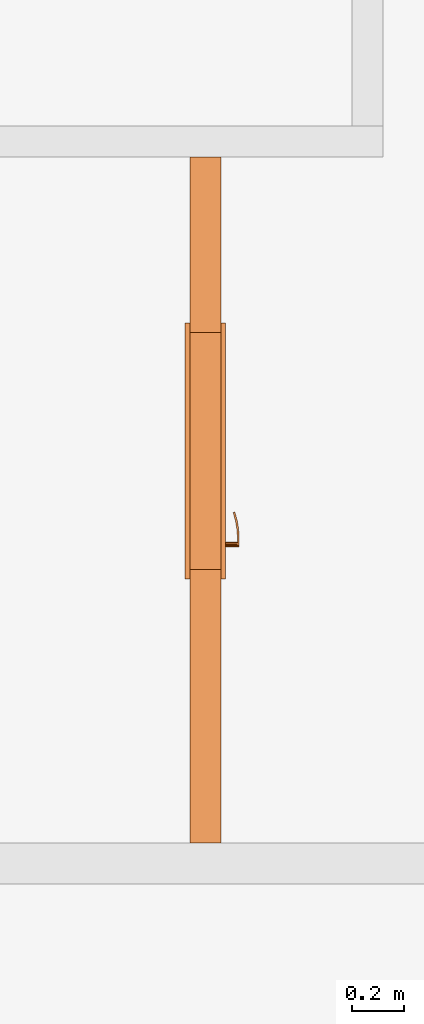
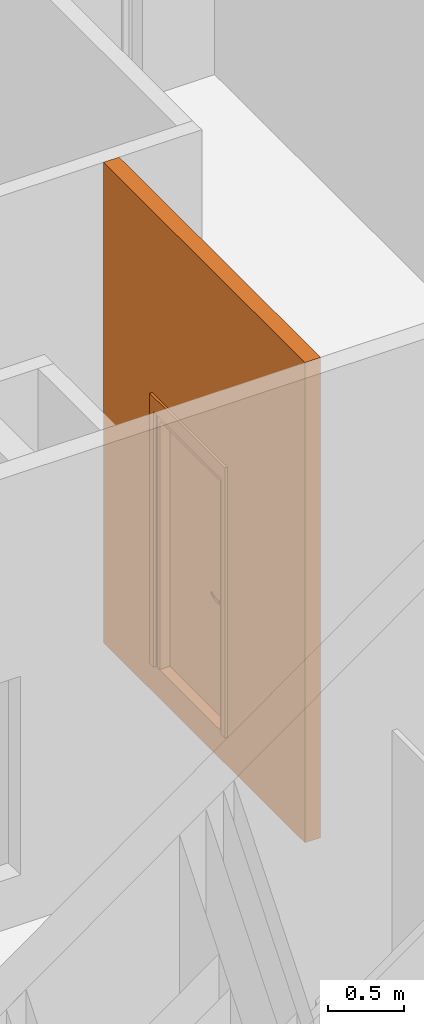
# One storey, part 14 of 46: 2 proxies, 1 opening.
"""IFC2X3 building model written with IfcOpenShell, lengths in millimetres."""

from ifc_helpers import new_model, entity, si_unit, converted_unit, derived_unit, money_unit, direction, frame, origin_with_axes, origin_2d_with_axis, place, context, subcontext, project, spatial, rectangle, extrude, open_shell, faceted_brep, surface_model, source, transform, mapped, material, type_object, element, fill, save


model = new_model("IFC2X3")

# Units and contexts
model_context = context("Model", 3, precision=0.01, world=origin_with_axes(), true_north=direction((0.34421633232, 0.938890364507)))
body_context = subcontext(model_context, "Body", "Model", "MODEL_VIEW")
ifc_project = project(units=[si_unit("LENGTHUNIT", "METRE", prefix="MILLI"), si_unit("AREAUNIT", "SQUARE_METRE"), si_unit("VOLUMEUNIT", "CUBIC_METRE"), converted_unit("PLANEANGLEUNIT", "DEGREE", entity("IfcPlaneAngleMeasure", 0.0174532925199), si_unit("PLANEANGLEUNIT", "RADIAN"), dimensions=[0, 0, 0, 0, 0, 0, 0]), si_unit("SOLIDANGLEUNIT", "STERADIAN"), money_unit("USD"), converted_unit("TIMEUNIT", "Year", entity("IfcTimeMeasure", 31556926.0), si_unit("TIMEUNIT", "SECOND"), dimensions=[0, 0, 1, 0, 0, 0, 0]), si_unit("MASSUNIT", "GRAM", prefix="KILO"), si_unit("THERMODYNAMICTEMPERATUREUNIT", "DEGREE_CELSIUS"), si_unit("LUMINOUSINTENSITYUNIT", "LUMEN"), si_unit("ENERGYUNIT", "JOULE", prefix="MEGA"), derived_unit("THERMALCONDUCTANCEUNIT", [(si_unit("POWERUNIT", "WATT"), 1), (si_unit("LENGTHUNIT", "METRE"), -1), (si_unit("THERMODYNAMICTEMPERATUREUNIT", "KELVIN"), -1)]), derived_unit("SPECIFICHEATCAPACITYUNIT", [(si_unit("ENERGYUNIT", "JOULE"), 1), (si_unit("MASSUNIT", "GRAM", prefix="KILO"), -1), (si_unit("THERMODYNAMICTEMPERATUREUNIT", "KELVIN"), -1)]), derived_unit("MASSDENSITYUNIT", [(si_unit("MASSUNIT", "GRAM", prefix="KILO"), 1), (si_unit("VOLUMEUNIT", "CUBIC_METRE"), -1)])], contexts=[model_context])

# Site, building, storey
site_placement = place(None, origin_with_axes())
site = spatial("IfcSite", under=ifc_project, at=site_placement, Name="USTRONIE MORSKIE", CompositionType="ELEMENT")
building_placement = place(site_placement, origin_with_axes())
building = spatial("IfcBuilding", under=site, at=building_placement, Name="Budynek", CompositionType="ELEMENT")
storey_placement = place(building_placement, origin_with_axes())
storey = spatial("IfcBuildingStorey", under=building, at=storey_placement, Name="PARTER", CompositionType="ELEMENT", Elevation=0.0)

# Proxies, opening
ifc_material = material(Name="Bloczki silikatowe")
building_element_proxy_type_1 = type_object("IfcBuildingElementProxyType", Name="Bloczki silikatowe 120", PredefinedType="NOTDEFINED")
proxy_1_placement = place(storey_placement, frame((375537.920919, 739651.199937, -230.0), z_axis=(0.0, 0.0, 1.0), x_axis=(0.0, -1.0, 0.0)))
proxy_1 = element("IfcBuildingElementProxy", 1, at=proxy_1_placement, inside=storey, type_object=building_element_proxy_type_1, material=ifc_material, Name="SW-04", context=body_context, shape_type="Brep", body=[
    faceted_brep([(2720.00090117, 60.0, 0.0), (2720.00090117, -60.0, 0.0), (59.9999999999, -60.0, 0.0), (59.9999999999, 60.0, 0.0), (2720.00090117, 60.0, 3870.0), (2720.00090117, -60.0, 3870.0), (59.9999999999, -60.0, 3870.0), (59.9999999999, 60.0, 3870.0)], [[[0, 1, 2, 3]], [[1, 0, 4, 5]], [[1, 5, 6, 2]], [[7, 3, 2, 6]], [[4, 0, 3, 7]], [[5, 4, 7, 6]]]),
])
opening_placement = place(proxy_1_placement, frame((1200.00090117, 0.0, 230.0), z_axis=(0.0, 0.0, 1.0), x_axis=(1.0, 0.0, 0.0)))
opening = element("IfcOpeningElement", 2, at=opening_placement, cuts=proxy_1, Name="Dw.4", context=body_context, shape_type="SweptSolid", body=[
    extrude(rectangle(XDim=920.0, YDim=2070.0, at=origin_2d_with_axis()), frame((0.0, -120.0, 1035.0), z_axis=(0.0, -1.0, 0.0), x_axis=(-1.0, 0.0, 0.0)), (0.0, 0.0, -1.0), 360.0),
    extrude(rectangle(XDim=994.0, YDim=2177.0, at=origin_2d_with_axis()), frame((0.0, -60.0, 1088.5), z_axis=(0.0, -1.0, 0.0), x_axis=(-1.0, 0.0, 0.0)), (0.0, 0.0, 1.0), 120.0),
    extrude(rectangle(XDim=994.0, YDim=2177.0, at=origin_2d_with_axis()), frame((0.0, 60.0, 1088.5), z_axis=(0.0, 1.0, 0.0), x_axis=(-1.0, 0.0, 0.0)), (0.0, 0.0, 1.0), 120.0),
])
building_element_proxy_type_2 = type_object("IfcBuildingElementProxyType", Name="Drzwi 23", PredefinedType="NOTDEFINED")
shared_shape = source(origin_with_axes(), body_context, "Body", "SurfaceModel", [
    faceted_brep([(460.0, -115.0, 0.0), (460.0, -120.0, 0.0), (435.0, -120.0, 0.0), (435.0, -115.0, 0.0), (460.0, -115.0, 2070.0), (460.0, -120.0, 2070.0), (435.0, -120.0, 2045.0), (435.0, -115.0, 2045.0)], [[[0, 1, 2, 3]], [[4, 5, 1, 0]], [[1, 5, 6, 2]], [[3, 2, 6, 7]], [[0, 3, 7, 4]], [[7, 6, 5, 4]]]),
    faceted_brep([(-460.0, -115.0, 2070.0), (-460.0, -120.0, 2070.0), (-435.0, -120.0, 2045.0), (-435.0, -115.0, 2045.0), (-460.0, -115.0, 0.0), (-460.0, -120.0, 0.0), (-435.0, -120.0, 0.0), (-435.0, -115.0, 0.0)], [[[0, 1, 2, 3]], [[4, 5, 1, 0]], [[1, 5, 6, 2]], [[3, 2, 6, 7]], [[0, 3, 7, 4]], [[7, 6, 5, 4]]]),
    faceted_brep([(435.0, -115.0, 2045.0), (435.0, -120.0, 2045.0), (-435.0, -120.0, 2045.0), (-435.0, -115.0, 2045.0), (460.0, -115.0, 2070.0), (460.0, -120.0, 2070.0), (-460.0, -120.0, 2070.0), (-460.0, -115.0, 2070.0)], [[[0, 1, 2, 3]], [[4, 5, 1, 0]], [[1, 5, 6, 2]], [[3, 2, 6, 7]], [[0, 3, 7, 4]], [[7, 6, 5, 4]]]),
    faceted_brep([(497.0, -139.0, 0.0), (447.0, -139.0, 0.0), (447.0, -120.0, 0.0), (497.0, -120.0, 0.0), (497.0, -139.0, 2177.0), (447.0, -139.0, 2057.0), (447.0, -120.0, 2057.0), (497.0, -120.0, 2177.0)], [[[0, 1, 2, 3]], [[0, 4, 5, 1]], [[1, 5, 6, 2]], [[3, 2, 6, 7]], [[4, 0, 3, 7]], [[5, 4, 7, 6]]]),
    faceted_brep([(-497.0, -139.0, 2177.0), (-447.0, -139.0, 2057.0), (-447.0, -120.0, 2057.0), (-497.0, -120.0, 2177.0), (-497.0, -139.0, 0.0), (-447.0, -139.0, 0.0), (-447.0, -120.0, 0.0), (-497.0, -120.0, 0.0)], [[[0, 1, 2, 3]], [[0, 4, 5, 1]], [[1, 5, 6, 2]], [[3, 2, 6, 7]], [[4, 0, 3, 7]], [[5, 4, 7, 6]]]),
    faceted_brep([(497.0, -139.0, 2177.0), (447.0, -139.0, 2057.0), (447.0, -120.0, 2057.0), (497.0, -120.0, 2177.0), (-497.0, -139.0, 2177.0), (-447.0, -139.0, 2057.0), (-447.0, -120.0, 2057.0), (-497.0, -120.0, 2177.0)], [[[0, 1, 2, 3]], [[0, 4, 5, 1]], [[1, 5, 6, 2]], [[3, 2, 6, 7]], [[4, 0, 3, 7]], [[5, 4, 7, 6]]]),
    faceted_brep([(497.0, 19.0, 0.0), (497.0, 0.0, 0.0), (447.0, 0.0, 0.0), (447.0, 19.0, 0.0), (497.0, 19.0, 2177.0), (497.0, 0.0, 2177.0), (447.0, 0.0, 2057.0), (447.0, 19.0, 2057.0)], [[[0, 1, 2, 3]], [[4, 5, 1, 0]], [[1, 5, 6, 2]], [[3, 2, 6, 7]], [[0, 3, 7, 4]], [[7, 6, 5, 4]]]),
    faceted_brep([(-497.0, 19.0, 2177.0), (-497.0, 0.0, 2177.0), (-447.0, 0.0, 2057.0), (-447.0, 19.0, 2057.0), (-497.0, 19.0, 0.0), (-497.0, 0.0, 0.0), (-447.0, 0.0, 0.0), (-447.0, 19.0, 0.0)], [[[0, 1, 2, 3]], [[4, 5, 1, 0]], [[1, 5, 6, 2]], [[3, 2, 6, 7]], [[0, 3, 7, 4]], [[7, 6, 5, 4]]]),
    faceted_brep([(497.0, 19.0, 2177.0), (497.0, 0.0, 2177.0), (447.0, 0.0, 2057.0), (447.0, 19.0, 2057.0), (-497.0, 19.0, 2177.0), (-497.0, 0.0, 2177.0), (-447.0, 0.0, 2057.0), (-447.0, 19.0, 2057.0)], [[[0, 1, 2, 3]], [[4, 5, 1, 0]], [[1, 5, 6, 2]], [[3, 2, 6, 7]], [[0, 3, 7, 4]], [[7, 6, 5, 4]]]),
    faceted_brep([(400.0, -40.0, 0.0), (400.0, -115.0, 0.0), (400.0, -115.0, 2000.0), (400.0, -40.0, 2000.0), (412.0, -40.0, 0.0), (412.0, 0.0, 0.0), (460.0, 0.0, 0.0), (460.0, -115.0, 0.0), (460.0, -115.0, 2000.0), (412.0, -40.0, 2000.0), (460.0, 0.0, 2000.0), (412.0, 0.0, 2000.0)], [[[0, 1, 2, 3]], [[4, 5, 6, 7, 1, 0]], [[1, 7, 8, 2]], [[9, 3, 2, 8, 10, 11]], [[9, 4, 0, 3]], [[11, 5, 4, 9]], [[11, 10, 6, 5]], [[6, 10, 8, 7]]]),
    faceted_brep([(-412.0, -40.0, 2000.0), (-412.0, 0.0, 2000.0), (-460.0, 0.0, 2000.0), (-460.0, -115.0, 2000.0), (-400.0, -115.0, 2000.0), (-400.0, -40.0, 2000.0), (-412.0, -40.0, 0.0), (-412.0, 0.0, 0.0), (-460.0, 0.0, 0.0), (-460.0, -115.0, 0.0), (-400.0, -115.0, 0.0), (-400.0, -40.0, 0.0)], [[[0, 1, 2, 3, 4, 5]], [[0, 6, 7, 1]], [[7, 8, 2, 1]], [[2, 8, 9, 3]], [[3, 9, 10, 4]], [[5, 4, 10, 11]], [[5, 11, 6, 0]], [[6, 11, 10, 9, 8, 7]]]),
    faceted_brep([(412.0, 0.0, 2012.0), (-412.0, 0.0, 2012.0), (-412.0, 0.0, 2000.0), (-460.0, 0.0, 2000.0), (-460.0, 0.0, 2070.0), (460.0, 0.0, 2070.0), (460.0, 0.0, 2000.0), (412.0, 0.0, 2000.0), (412.0, -40.0, 2012.0), (-412.0, -40.0, 2012.0), (-412.0, -40.0, 2000.0), (-400.0, -40.0, 2000.0), (-400.0, -115.0, 2000.0), (-460.0, -115.0, 2000.0), (-460.0, -115.0, 2070.0), (460.0, -115.0, 2070.0), (460.0, -115.0, 2000.0), (412.0, -40.0, 2000.0), (400.0, -115.0, 2000.0), (400.0, -40.0, 2000.0)], [[[0, 1, 2, 3, 4, 5, 6, 7]], [[0, 8, 9, 1]], [[1, 9, 10, 2]], [[10, 11, 12, 13, 3, 2]], [[4, 3, 13, 14]], [[5, 4, 14, 15]], [[6, 5, 15, 16]], [[17, 7, 6, 16, 18, 19]], [[7, 17, 8, 0]], [[10, 9, 8, 17, 19, 11]], [[19, 18, 12, 11]], [[12, 18, 16, 15, 14, 13]]]),
    faceted_brep([(390.5, -40.0, 1060.0), (333.5, -40.0, 1060.0), (333.5, -43.0, 1060.0), (390.5, -43.0, 1060.0), (390.5, -40.0, 870.0), (333.5, -40.0, 870.0), (333.5, -43.0, 870.0), (390.5, -43.0, 870.0)], [[[0, 1, 2, 3]], [[0, 4, 5, 1]], [[1, 5, 6, 2]], [[3, 2, 6, 7]], [[4, 0, 3, 7]], [[5, 4, 7, 6]]]),
    faceted_brep([(362.0, -104.0, 990.0), (367.0, -104.0, 991.339745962), (367.0, -111.0, 991.339745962), (362.0, -111.0, 990.0), (337.0, -104.0, 990.0), (337.0, -104.0, 1010.0), (362.0, -104.0, 1010.0), (367.0, -104.0, 1008.66025404), (370.660254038, -104.0, 1005.0), (372.0, -104.0, 1000.0), (370.660254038, -104.0, 995.0), (370.660254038, -111.0, 995.0), (372.0, -111.0, 1000.0), (370.660254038, -111.0, 1005.0), (367.0, -111.0, 1008.66025404), (362.0, -111.0, 1010.0), (337.0, -111.0, 1010.0), (337.0, -111.0, 990.0)], [[[0, 1, 2, 3]], [[0, 4, 5, 6, 7, 8, 9, 10, 1]], [[1, 10, 11, 2]], [[3, 2, 11, 12, 13, 14, 15, 16, 17]], [[4, 0, 3, 17]], [[5, 4, 17, 16]], [[6, 5, 16, 15]], [[7, 6, 15, 14]], [[8, 7, 14, 13]], [[9, 8, 13, 12]], [[10, 9, 12, 11]]]),
    surface_model("IfcShellBasedSurfaceModel", [(337.0, -104.0, 1010.0), (323.901717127, -104.0, 1009.60730092), (323.596090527, -111.0, 1009.60730092), (337.0, -104.0, 990.0), (323.901717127, -104.0, 990.392699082), (296.890283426, -108.663544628, 1008.82190275), (337.0, -111.0, 1010.0), (337.0, -111.0, 990.0), (297.804837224, -101.716818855, 991.178097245), (297.804837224, -101.716818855, 1008.82190275), (296.890283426, -108.663544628, 991.178097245), (323.596090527, -111.0, 990.392699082), (272.006256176, -97.1678329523, 991.963495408), (272.006256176, -97.1678329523, 1008.03650459), (270.489735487, -104.008415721, 1008.03650459), (270.489735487, -104.008415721, 991.963495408), (246.702316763, -90.3876628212, 992.748893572), (246.702316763, -90.3876628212, 1007.25110643), (244.59537082, -97.0700416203, 1007.25110643), (244.59537082, -97.0700416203, 992.748893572), (238.829442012, -87.5221707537, 993.0), (238.829442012, -87.5221707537, 1007.0), (236.538795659, -94.1376880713, 1007.0), (236.538795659, -94.1376880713, 993.0)], [open_shell([[[0, 1, 2]], [[0, 3, 4, 1]], [[1, 5, 2]], [[0, 2, 6]], [[4, 3, 7]], [[1, 4, 8, 9]], [[1, 9, 5]], [[2, 5, 10, 11]], [[6, 2, 11, 7]], [[4, 7, 11]], [[8, 4, 11]], [[9, 8, 12, 13]], [[9, 14, 5]], [[5, 14, 15, 10]], [[8, 11, 10]], [[12, 8, 10]], [[13, 12, 16, 17]], [[9, 13, 14]], [[14, 18, 19, 15]], [[12, 10, 15]], [[16, 12, 15]], [[17, 16, 20, 21]], [[13, 17, 18]], [[13, 18, 14]], [[18, 22, 23, 19]], [[16, 15, 19]], [[20, 16, 19]], [[21, 20, 23, 22]], [[17, 21, 22]], [[17, 22, 18]], [[20, 19, 23]]])]),
    faceted_brep([(351.607695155, -53.0, 994.0), (350.0, -53.0, 1000.0), (349.0, -43.0, 1000.0), (350.741669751, -43.0, 993.5), (356.0, -53.0, 989.607695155), (362.0, -53.0, 988.0), (368.0, -53.0, 989.607695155), (372.392304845, -53.0, 994.0), (374.0, -53.0, 1000.0), (372.392304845, -53.0, 1006.0), (368.0, -53.0, 1010.39230485), (362.0, -53.0, 1012.0), (356.0, -53.0, 1010.39230485), (351.607695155, -53.0, 1006.0), (350.741669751, -43.0, 1006.5), (355.5, -43.0, 1011.25833025), (362.0, -43.0, 1013.0), (368.5, -43.0, 1011.25833025), (373.258330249, -43.0, 1006.5), (375.0, -43.0, 1000.0), (373.258330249, -43.0, 993.5), (368.5, -43.0, 988.741669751), (362.0, -43.0, 987.0), (355.5, -43.0, 988.741669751)], [[[0, 1, 2, 3]], [[1, 0, 4, 5, 6, 7, 8, 9, 10, 11, 12, 13]], [[1, 13, 14, 2]], [[2, 14, 15, 16, 17, 18, 19, 20, 21, 22, 23, 3]], [[4, 0, 3, 23]], [[5, 4, 23, 22]], [[6, 5, 22, 21]], [[7, 6, 21, 20]], [[8, 7, 20, 19]], [[9, 8, 19, 18]], [[10, 9, 18, 17]], [[11, 10, 17, 16]], [[12, 11, 16, 15]], [[13, 12, 15, 14]]]),
    faceted_brep([(344.679491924, -47.0, 895.0), (342.0, -47.0, 905.0), (340.0, -43.0, 905.0), (342.947441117, -43.0, 894.0), (352.0, -47.0, 887.679491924), (362.0, -47.0, 885.0), (372.0, -47.0, 887.679491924), (379.320508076, -47.0, 895.0), (382.0, -47.0, 905.0), (379.320508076, -47.0, 915.0), (372.0, -47.0, 922.320508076), (362.0, -47.0, 925.0), (352.0, -47.0, 922.320508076), (344.679491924, -47.0, 915.0), (342.947441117, -43.0, 916.0), (351.0, -43.0, 924.052558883), (362.0, -43.0, 927.0), (373.0, -43.0, 924.052558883), (381.052558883, -43.0, 916.0), (384.0, -43.0, 905.0), (381.052558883, -43.0, 894.0), (373.0, -43.0, 885.947441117), (362.0, -43.0, 883.0), (351.0, -43.0, 885.947441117)], [[[0, 1, 2, 3]], [[1, 0, 4, 5, 6, 7, 8, 9, 10, 11, 12, 13]], [[1, 13, 14, 2]], [[2, 14, 15, 16, 17, 18, 19, 20, 21, 22, 23, 3]], [[4, 0, 3, 23]], [[5, 4, 23, 22]], [[6, 5, 22, 21]], [[7, 6, 21, 20]], [[8, 7, 20, 19]], [[9, 8, 19, 18]], [[10, 9, 18, 17]], [[11, 10, 17, 16]], [[12, 11, 16, 15]], [[13, 12, 15, 14]]]),
    faceted_brep([(357.050252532, -49.0, 909.050252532), (355.0, -49.0, 914.0), (354.0, -47.0, 914.0), (356.343145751, -47.0, 908.343145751), (362.0, -49.0, 907.0), (366.949747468, -49.0, 909.050252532), (369.0, -49.0, 914.0), (366.949747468, -49.0, 918.949747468), (362.0, -49.0, 921.0), (357.050252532, -49.0, 918.949747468), (356.343145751, -47.0, 919.656854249), (362.0, -47.0, 922.0), (367.656854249, -47.0, 919.656854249), (370.0, -47.0, 914.0), (367.656854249, -47.0, 908.343145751), (362.0, -47.0, 906.0)], [[[0, 1, 2, 3]], [[1, 0, 4, 5, 6, 7, 8, 9]], [[1, 9, 10, 2]], [[2, 10, 11, 12, 13, 14, 15, 3]], [[4, 0, 3, 15]], [[5, 4, 15, 14]], [[6, 5, 14, 13]], [[7, 6, 13, 12]], [[8, 7, 12, 11]], [[9, 8, 11, 10]]]),
    faceted_brep([(362.0, -53.0, 1010.0), (357.0, -53.0, 1008.66025404), (357.0, -104.0, 1008.66025404), (362.0, -104.0, 1010.0), (367.0, -53.0, 1008.66025404), (370.660254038, -53.0, 1005.0), (372.0, -53.0, 1000.0), (370.660254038, -53.0, 995.0), (367.0, -53.0, 991.339745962), (362.0, -53.0, 990.0), (357.0, -53.0, 991.339745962), (353.339745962, -53.0, 995.0), (352.0, -53.0, 1000.0), (353.339745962, -53.0, 1005.0), (353.339745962, -104.0, 1005.0), (352.0, -104.0, 1000.0), (353.339745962, -104.0, 995.0), (357.0, -104.0, 991.339745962), (362.0, -104.0, 990.0), (367.0, -104.0, 991.339745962), (370.660254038, -104.0, 995.0), (372.0, -104.0, 1000.0), (370.660254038, -104.0, 1005.0), (367.0, -104.0, 1008.66025404)], [[[0, 1, 2, 3]], [[0, 4, 5, 6, 7, 8, 9, 10, 11, 12, 13, 1]], [[1, 13, 14, 2]], [[3, 2, 14, 15, 16, 17, 18, 19, 20, 21, 22, 23]], [[4, 0, 3, 23]], [[5, 4, 23, 22]], [[6, 5, 22, 21]], [[7, 6, 21, 20]], [[8, 7, 20, 19]], [[9, 8, 19, 18]], [[10, 9, 18, 17]], [[11, 10, 17, 16]], [[12, 11, 16, 15]], [[13, 12, 15, 14]]]),
    faceted_brep([(390.5, 0.0, 1060.0), (390.5, 3.0, 1060.0), (333.5, 3.0, 1060.0), (333.5, 0.0, 1060.0), (390.5, 0.0, 870.0), (390.5, 3.0, 870.0), (333.5, 3.0, 870.0), (333.5, 0.0, 870.0)], [[[0, 1, 2, 3]], [[4, 5, 1, 0]], [[1, 5, 6, 2]], [[3, 2, 6, 7]], [[0, 3, 7, 4]], [[7, 6, 5, 4]]]),
    faceted_brep([(362.0, 64.0, 990.0), (362.0, 71.0, 990.0), (367.0, 71.0, 991.339745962), (367.0, 64.0, 991.339745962), (337.0, 64.0, 990.0), (337.0, 71.0, 990.0), (337.0, 71.0, 1010.0), (362.0, 71.0, 1010.0), (367.0, 71.0, 1008.66025404), (370.660254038, 71.0, 1005.0), (372.0, 71.0, 1000.0), (370.660254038, 71.0, 995.0), (370.660254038, 64.0, 995.0), (372.0, 64.0, 1000.0), (370.660254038, 64.0, 1005.0), (367.0, 64.0, 1008.66025404), (362.0, 64.0, 1010.0), (337.0, 64.0, 1010.0)], [[[0, 1, 2, 3]], [[4, 5, 1, 0]], [[1, 5, 6, 7, 8, 9, 10, 11, 2]], [[3, 2, 11, 12]], [[0, 3, 12, 13, 14, 15, 16, 17, 4]], [[17, 6, 5, 4]], [[16, 7, 6, 17]], [[15, 8, 7, 16]], [[14, 9, 8, 15]], [[13, 10, 9, 14]], [[12, 11, 10, 13]]]),
    surface_model("IfcShellBasedSurfaceModel", [(337.0, 64.0, 1010.0), (323.596090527, 71.0, 1009.60730092), (323.901717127, 64.0, 1009.60730092), (337.0, 71.0, 1010.0), (296.890283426, 68.6635446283, 1008.82190275), (323.901717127, 64.0, 990.392699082), (337.0, 64.0, 990.0), (337.0, 71.0, 990.0), (323.596090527, 71.0, 990.392699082), (296.890283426, 68.6635446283, 991.178097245), (297.804837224, 61.716818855, 1008.82190275), (297.804837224, 61.716818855, 991.178097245), (270.489735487, 64.0084157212, 991.963495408), (270.489735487, 64.0084157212, 1008.03650459), (272.006256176, 57.1678329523, 1008.03650459), (272.006256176, 57.1678329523, 991.963495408), (244.59537082, 57.0700416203, 992.748893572), (244.59537082, 57.0700416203, 1007.25110643), (246.702316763, 50.3876628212, 1007.25110643), (246.702316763, 50.3876628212, 992.748893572), (236.538795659, 54.1376880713, 993.0), (236.538795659, 54.1376880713, 1007.0), (238.829442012, 47.5221707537, 1007.0), (238.829442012, 47.5221707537, 993.0)], [open_shell([[[0, 1, 2]], [[0, 3, 1]], [[2, 1, 4]], [[0, 2, 5, 6]], [[3, 7, 8, 1]], [[1, 8, 9, 4]], [[2, 4, 10]], [[2, 10, 11, 5]], [[5, 7, 6]], [[5, 8, 7]], [[11, 9, 8]], [[4, 9, 12, 13]], [[10, 4, 13]], [[10, 14, 15, 11]], [[11, 8, 5]], [[15, 9, 11]], [[15, 12, 9]], [[13, 12, 16, 17]], [[10, 13, 14]], [[14, 18, 19, 15]], [[19, 12, 15]], [[19, 16, 12]], [[17, 16, 20, 21]], [[14, 13, 17]], [[14, 17, 18]], [[18, 22, 23, 19]], [[23, 16, 19]], [[23, 20, 16]], [[22, 21, 20, 23]], [[18, 17, 21]], [[18, 21, 22]]])]),
    faceted_brep([(351.607695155, 13.0, 994.0), (350.741669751, 3.0, 993.5), (349.0, 3.0, 1000.0), (350.0, 13.0, 1000.0), (356.0, 13.0, 989.607695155), (355.5, 3.0, 988.741669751), (362.0, 3.0, 987.0), (368.5, 3.0, 988.741669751), (373.258330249, 3.0, 993.5), (375.0, 3.0, 1000.0), (373.258330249, 3.0, 1006.5), (368.5, 3.0, 1011.25833025), (362.0, 3.0, 1013.0), (355.5, 3.0, 1011.25833025), (350.741669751, 3.0, 1006.5), (351.607695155, 13.0, 1006.0), (356.0, 13.0, 1010.39230485), (362.0, 13.0, 1012.0), (368.0, 13.0, 1010.39230485), (372.392304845, 13.0, 1006.0), (374.0, 13.0, 1000.0), (372.392304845, 13.0, 994.0), (368.0, 13.0, 989.607695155), (362.0, 13.0, 988.0)], [[[0, 1, 2, 3]], [[4, 5, 1, 0]], [[2, 1, 5, 6, 7, 8, 9, 10, 11, 12, 13, 14]], [[3, 2, 14, 15]], [[3, 15, 16, 17, 18, 19, 20, 21, 22, 23, 4, 0]], [[23, 6, 5, 4]], [[22, 7, 6, 23]], [[21, 8, 7, 22]], [[20, 9, 8, 21]], [[19, 10, 9, 20]], [[18, 11, 10, 19]], [[17, 12, 11, 18]], [[16, 13, 12, 17]], [[15, 14, 13, 16]]]),
    faceted_brep([(344.679491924, 7.0, 895.0), (342.947441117, 3.0, 894.0), (340.0, 3.0, 905.0), (342.0, 7.0, 905.0), (352.0, 7.0, 887.679491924), (351.0, 3.0, 885.947441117), (362.0, 3.0, 883.0), (373.0, 3.0, 885.947441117), (381.052558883, 3.0, 894.0), (384.0, 3.0, 905.0), (381.052558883, 3.0, 916.0), (373.0, 3.0, 924.052558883), (362.0, 3.0, 927.0), (351.0, 3.0, 924.052558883), (342.947441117, 3.0, 916.0), (344.679491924, 7.0, 915.0), (352.0, 7.0, 922.320508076), (362.0, 7.0, 925.0), (372.0, 7.0, 922.320508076), (379.320508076, 7.0, 915.0), (382.0, 7.0, 905.0), (379.320508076, 7.0, 895.0), (372.0, 7.0, 887.679491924), (362.0, 7.0, 885.0)], [[[0, 1, 2, 3]], [[4, 5, 1, 0]], [[2, 1, 5, 6, 7, 8, 9, 10, 11, 12, 13, 14]], [[3, 2, 14, 15]], [[3, 15, 16, 17, 18, 19, 20, 21, 22, 23, 4, 0]], [[23, 6, 5, 4]], [[22, 7, 6, 23]], [[21, 8, 7, 22]], [[20, 9, 8, 21]], [[19, 10, 9, 20]], [[18, 11, 10, 19]], [[17, 12, 11, 18]], [[16, 13, 12, 17]], [[15, 14, 13, 16]]]),
    faceted_brep([(357.050252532, 9.0, 909.050252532), (356.343145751, 7.0, 908.343145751), (354.0, 7.0, 914.0), (355.0, 9.0, 914.0), (362.0, 9.0, 907.0), (362.0, 7.0, 906.0), (367.656854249, 7.0, 908.343145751), (370.0, 7.0, 914.0), (367.656854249, 7.0, 919.656854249), (362.0, 7.0, 922.0), (356.343145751, 7.0, 919.656854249), (357.050252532, 9.0, 918.949747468), (362.0, 9.0, 921.0), (366.949747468, 9.0, 918.949747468), (369.0, 9.0, 914.0), (366.949747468, 9.0, 909.050252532)], [[[0, 1, 2, 3]], [[4, 5, 1, 0]], [[2, 1, 5, 6, 7, 8, 9, 10]], [[3, 2, 10, 11]], [[3, 11, 12, 13, 14, 15, 4, 0]], [[15, 6, 5, 4]], [[14, 7, 6, 15]], [[13, 8, 7, 14]], [[12, 9, 8, 13]], [[11, 10, 9, 12]]]),
    faceted_brep([(362.0, 13.0, 1010.0), (362.0, 64.0, 1010.0), (357.0, 64.0, 1008.66025404), (357.0, 13.0, 1008.66025404), (367.0, 13.0, 1008.66025404), (367.0, 64.0, 1008.66025404), (370.660254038, 64.0, 1005.0), (372.0, 64.0, 1000.0), (370.660254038, 64.0, 995.0), (367.0, 64.0, 991.339745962), (362.0, 64.0, 990.0), (357.0, 64.0, 991.339745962), (353.339745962, 64.0, 995.0), (352.0, 64.0, 1000.0), (353.339745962, 64.0, 1005.0), (353.339745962, 13.0, 1005.0), (352.0, 13.0, 1000.0), (353.339745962, 13.0, 995.0), (357.0, 13.0, 991.339745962), (362.0, 13.0, 990.0), (367.0, 13.0, 991.339745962), (370.660254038, 13.0, 995.0), (372.0, 13.0, 1000.0), (370.660254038, 13.0, 1005.0)], [[[0, 1, 2, 3]], [[4, 5, 1, 0]], [[1, 5, 6, 7, 8, 9, 10, 11, 12, 13, 14, 2]], [[3, 2, 14, 15]], [[0, 3, 15, 16, 17, 18, 19, 20, 21, 22, 23, 4]], [[23, 6, 5, 4]], [[22, 7, 6, 23]], [[21, 8, 7, 22]], [[20, 9, 8, 21]], [[19, 10, 9, 20]], [[18, 11, 10, 19]], [[17, 12, 11, 18]], [[16, 13, 12, 17]], [[15, 14, 13, 16]]]),
    faceted_brep([(-412.0, 0.0, 0.0), (412.0, 0.0, 0.0), (412.0, -40.0, 0.0), (-412.0, -40.0, 0.0), (-412.0, 0.0, 2012.0), (412.0, 0.0, 2012.0), (412.0, -40.0, 2012.0), (-412.0, -40.0, 2012.0)], [[[0, 1, 2, 3]], [[0, 4, 5, 1]], [[1, 5, 6, 2]], [[3, 2, 6, 7]], [[4, 0, 3, 7]], [[5, 4, 7, 6]]]),
])
proxy_2_placement = place(opening_placement, frame((-400.0, 0.0, 0.0), z_axis=(0.0, 0.0, 1.0), x_axis=(1.0, 0.0, 0.0)))
proxy_2 = element("IfcBuildingElementProxy", 3, at=proxy_2_placement, inside=storey, type_object=building_element_proxy_type_2, Name="Dw.4", context=body_context, shape_type="MappedRepresentation", body=[
    mapped(shared_shape, transform((400.0, 60.0, 0.0))),
])
fill(opening, proxy_2)

save(model, "model.ifc")
